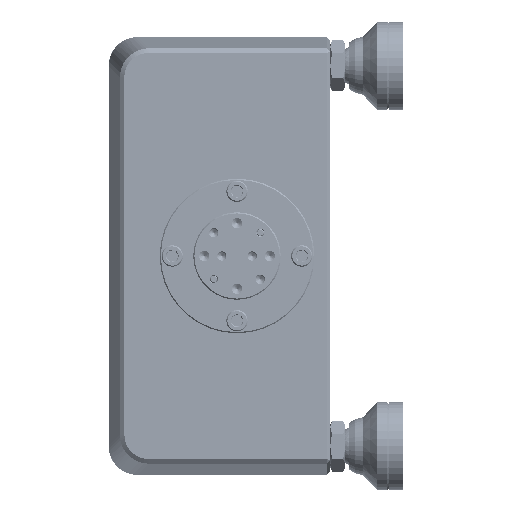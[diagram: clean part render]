
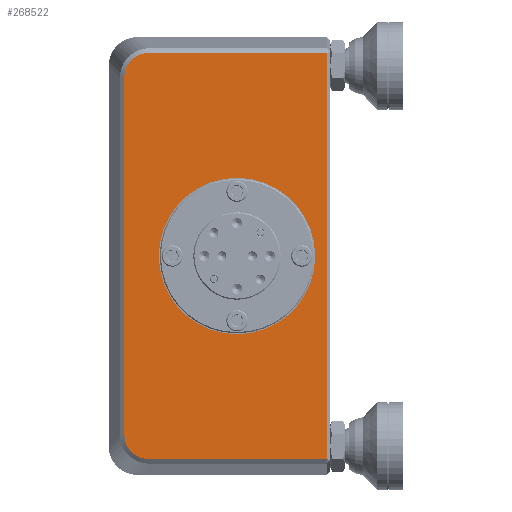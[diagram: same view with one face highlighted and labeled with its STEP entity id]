
A CAD part, left-side view. The second image highlights one B-rep face of the part: STEP entity #268522.
In plain terms, the highlighted planar face has unit normal (-1, 0, 0).
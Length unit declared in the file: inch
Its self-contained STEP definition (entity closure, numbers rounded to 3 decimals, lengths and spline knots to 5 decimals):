
#5119 = DIRECTION ( 'NONE',  ( 0., -1., 0. ) ) ;
#14846 = CARTESIAN_POINT ( 'NONE',  ( -0.753, 1.61115, -1.73465 ) ) ;
#16471 = CARTESIAN_POINT ( 'NONE',  ( -0.753, 1.55616, -1.74008 ) ) ;
#17945 = CARTESIAN_POINT ( 'NONE',  ( -0.753, 1.68485, 1.69836 ) ) ;
#17951 = DIRECTION ( 'NONE',  ( -1., 0., 0. ) ) ;
#24238 = CARTESIAN_POINT ( 'NONE',  ( -0.753, 1.73885, -1.63662 ) ) ;
#31124 = AXIS2_PLACEMENT_3D ( 'NONE', #307925, #205163, #81089 ) ;
#31185 = DIRECTION ( 'NONE',  ( 0., 0., 1. ) ) ;
#31751 = CARTESIAN_POINT ( 'NONE',  ( -0.753, 0.03, 1.74008 ) ) ;
#33253 = LINE ( 'NONE', #160621, #45462 ) ;
#34098 = VECTOR ( 'NONE', #31185, 39.37008 ) ;
#34566 = CARTESIAN_POINT ( 'NONE',  ( -0.753, 1.55616, 1.74008 ) ) ;
#39554 = DIRECTION ( 'NONE',  ( 0., 0., 1. ) ) ;
#41332 = CARTESIAN_POINT ( 'NONE',  ( -0.753, 1.66162, -1.71384 ) ) ;
#42826 = EDGE_LOOP ( 'NONE', ( #288823, #58520 ) ) ;
#42973 = CARTESIAN_POINT ( 'NONE',  ( -0.753, 1.76508, -1.55864 ) ) ;
#43504 = VERTEX_POINT ( 'NONE', #31751 ) ;
#44904 = CIRCLE ( 'NONE', #261501, 0.67 ) ;
#45462 = VECTOR ( 'NONE', #101615, 39.37008 ) ;
#58520 = ORIENTED_EDGE ( 'NONE', *, *, #86325, .F. ) ;
#62358 = EDGE_LOOP ( 'NONE', ( #295981, #125826, #181994, #95494, #288647, #161223 ) ) ;
#77413 = CARTESIAN_POINT ( 'NONE',  ( -0.753, 1.75965, 1.58615 ) ) ;
#79074 = EDGE_CURVE ( 'NONE', #43504, #258214, #33253, .T. ) ;
#81089 = DIRECTION ( 'NONE',  ( 0., 0., 1. ) ) ;
#86325 = EDGE_CURVE ( 'NONE', #306533, #137809, #311379, .T. ) ;
#89482 = EDGE_CURVE ( 'NONE', #150352, #233591, #289742, .T. ) ;
#92408 = CARTESIAN_POINT ( 'NONE',  ( -0.753, 1.58364, 1.74008 ) ) ;
#95494 = ORIENTED_EDGE ( 'NONE', *, *, #79074, .T. ) ;
#97345 = CARTESIAN_POINT ( 'NONE',  ( -0.753, 0.8, 0. ) ) ;
#101615 = DIRECTION ( 'NONE',  ( 0., 1., 0. ) ) ;
#109338 = CARTESIAN_POINT ( 'NONE',  ( -0.753, 0.8, 0.67 ) ) ;
#114172 = CARTESIAN_POINT ( 'NONE',  ( -0.753, 1.72336, -1.65985 ) ) ;
#115952 = CARTESIAN_POINT ( 'NONE',  ( -0.753, 1.76508, 0. ) ) ;
#118902 = CARTESIAN_POINT ( 'NONE',  ( -0.753, 1.72336, 1.65986 ) ) ;
#124994 = EDGE_CURVE ( 'NONE', #258214, #317572, #194260, .T. ) ;
#125826 = ORIENTED_EDGE ( 'NONE', *, *, #256808, .T. ) ;
#127086 = CARTESIAN_POINT ( 'NONE',  ( -0.753, 1.76508, 1.53116 ) ) ;
#132150 = LINE ( 'NONE', #228053, #34098 ) ;
#135585 = PLANE ( 'NONE',  #270682 ) ;
#137809 = VERTEX_POINT ( 'NONE', #109338 ) ;
#143901 = CARTESIAN_POINT ( 'NONE',  ( -0.753, 1.76508, -1.53116 ) ) ;
#150352 = VERTEX_POINT ( 'NONE', #242291 ) ;
#151596 = CARTESIAN_POINT ( 'NONE',  ( -0.753, 1.5837, -1.74008 ) ) ;
#157118 = FACE_BOUND ( 'NONE', #42826, .T. ) ;
#160621 = CARTESIAN_POINT ( 'NONE',  ( -0.753, 0.95, 1.74008 ) ) ;
#161223 = ORIENTED_EDGE ( 'NONE', *, *, #325046, .T. ) ;
#177343 = EDGE_CURVE ( 'NONE', #137809, #306533, #44904, .T. ) ;
#178296 = CARTESIAN_POINT ( 'NONE',  ( -0.753, 1.76508, 1.5587 ) ) ;
#181994 = ORIENTED_EDGE ( 'NONE', *, *, #205607, .T. ) ;
#185378 = CARTESIAN_POINT ( 'NONE',  ( -0.753, 0.95, -1.74008 ) ) ;
#192670 = CARTESIAN_POINT ( 'NONE',  ( -0.753, 1.55616, -1.74008 ) ) ;
#193312 = CARTESIAN_POINT ( 'NONE',  ( -0.753, 1.61114, 1.73464 ) ) ;
#194260 = B_SPLINE_CURVE_WITH_KNOTS ( 'NONE', 3,
 ( #319205, #92408, #193312, #294367, #17945, #118902, #249565, #77413, #178296, #302559 ),
 .UNSPECIFIED., .F., .F.,
 ( 4, 2, 2, 2, 4 ),
 ( 0., 0.25, 0.5, 0.75, 1. ),
 .UNSPECIFIED. ) ;
#199802 = VERTEX_POINT ( 'NONE', #209489 ) ;
#205163 = DIRECTION ( 'NONE',  ( -1., 0., 0. ) ) ;
#205607 = EDGE_CURVE ( 'NONE', #199802, #43504, #132150, .T. ) ;
#209489 = CARTESIAN_POINT ( 'NONE',  ( -0.753, 0.03, -1.74008 ) ) ;
#210193 = LINE ( 'NONE', #185378, #255006 ) ;
#211510 = CARTESIAN_POINT ( 'NONE',  ( -0.753, 0.95, 0. ) ) ;
#216632 = CARTESIAN_POINT ( 'NONE',  ( -0.753, 1.75964, -1.58614 ) ) ;
#228053 = CARTESIAN_POINT ( 'NONE',  ( -0.753, 0.03, 0. ) ) ;
#233591 = VERTEX_POINT ( 'NONE', #192670 ) ;
#238408 = LINE ( 'NONE', #115952, #273148 ) ;
#242291 = CARTESIAN_POINT ( 'NONE',  ( -0.753, 1.76508, -1.53116 ) ) ;
#249565 = CARTESIAN_POINT ( 'NONE',  ( -0.753, 1.73884, 1.63662 ) ) ;
#255006 = VECTOR ( 'NONE', #5119, 39.37008 ) ;
#256808 = EDGE_CURVE ( 'NONE', #233591, #199802, #210193, .T. ) ;
#258214 = VERTEX_POINT ( 'NONE', #34566 ) ;
#261501 = AXIS2_PLACEMENT_3D ( 'NONE', #97345, #17951, #39554 ) ;
#262976 = DIRECTION ( 'NONE',  ( 1., 0., 0. ) ) ;
#268522 = ADVANCED_FACE ( 'NONE', ( #314310, #157118 ), #135585, .F. ) ;
#270682 = AXIS2_PLACEMENT_3D ( 'NONE', #211510, #262976, #289480 ) ;
#273148 = VECTOR ( 'NONE', #293041, 39.37008 ) ;
#288647 = ORIENTED_EDGE ( 'NONE', *, *, #124994, .T. ) ;
#288823 = ORIENTED_EDGE ( 'NONE', *, *, #177343, .F. ) ;
#289480 = DIRECTION ( 'NONE',  ( 0., 0., -1. ) ) ;
#289742 = B_SPLINE_CURVE_WITH_KNOTS ( 'NONE', 3,
 ( #143901, #42973, #216632, #24238, #114172, #292895, #41332, #14846, #151596, #16471 ),
 .UNSPECIFIED., .F., .F.,
 ( 4, 2, 2, 2, 4 ),
 ( 0., 0.25, 0.5, 0.75, 1. ),
 .UNSPECIFIED. ) ;
#292895 = CARTESIAN_POINT ( 'NONE',  ( -0.753, 1.68486, -1.69836 ) ) ;
#293041 = DIRECTION ( 'NONE',  ( 0., 0., -1. ) ) ;
#294367 = CARTESIAN_POINT ( 'NONE',  ( -0.753, 1.66162, 1.71385 ) ) ;
#295981 = ORIENTED_EDGE ( 'NONE', *, *, #89482, .T. ) ;
#302559 = CARTESIAN_POINT ( 'NONE',  ( -0.753, 1.76508, 1.53116 ) ) ;
#306533 = VERTEX_POINT ( 'NONE', #327140 ) ;
#307925 = CARTESIAN_POINT ( 'NONE',  ( -0.753, 0.8, 0. ) ) ;
#311379 = CIRCLE ( 'NONE', #31124, 0.67 ) ;
#314310 = FACE_OUTER_BOUND ( 'NONE', #62358, .T. ) ;
#317572 = VERTEX_POINT ( 'NONE', #127086 ) ;
#319205 = CARTESIAN_POINT ( 'NONE',  ( -0.753, 1.55616, 1.74008 ) ) ;
#325046 = EDGE_CURVE ( 'NONE', #317572, #150352, #238408, .T. ) ;
#327140 = CARTESIAN_POINT ( 'NONE',  ( -0.753, 0.8, -0.67 ) ) ;
